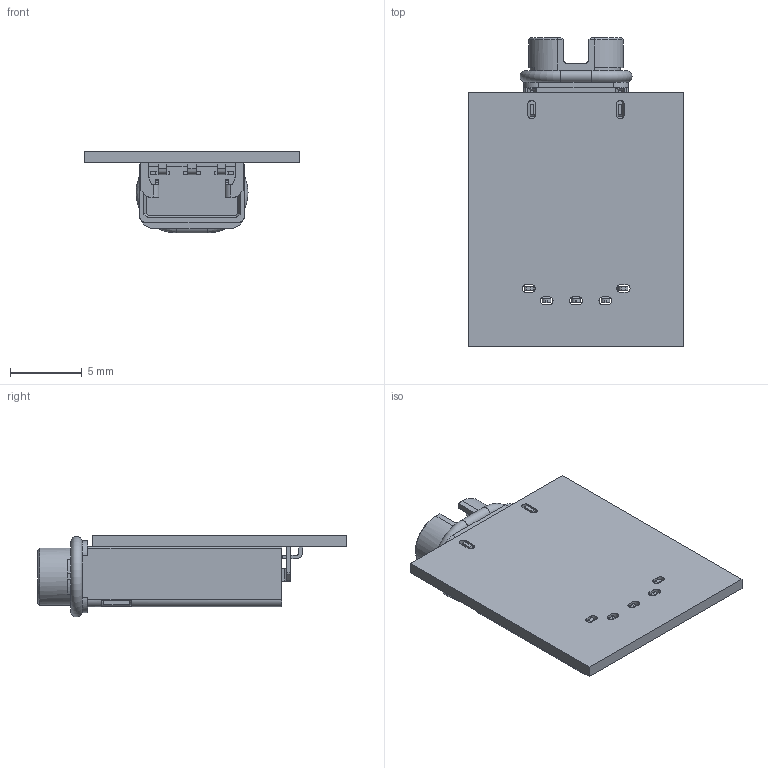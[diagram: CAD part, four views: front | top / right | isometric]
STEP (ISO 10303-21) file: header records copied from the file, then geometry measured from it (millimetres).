
FILE_DESCRIPTION(/* description */ (''),/* implementation_level */ '2;1');
FILE_NAME(/* name */ 'PJ35A145-DZ25451-E.stp',/* time_stamp */ '2025-05-28T17:42:49+08:00',/* author */ (''),/* organization */ (''),/* preprocessor_version */ 'ST-DEVELOPER v16.7',/* originating_system */ 'SIEMENS PLM Software NX 12.0',/* authorisation */ '');
FILE_SCHEMA (('AUTOMOTIVE_DESIGN { 1 0 10303 214 3 1 1 1 }'));
Length unit declared in the file: millimetre
Products named in the file (1): 2SJ2145_NOEar_ALLdip_stp
Bounding box: 15 x 21.5 x 5.7 mm (x, y, z)
Volume: 567.8 mm3; surface area: 1326.9 mm2
Topology: 3 solids, 3 shells, 516 faces, 1434 edges, 942 vertices
Faces by surface type: plane 351, cylinder 139, cone 14, extrusion 6, torus 4, bspline 2
Full cylindrical faces by diameter (mm): 0.8 x2
Entity records: 17538 total; most frequent: CARTESIAN_POINT 3897, ORIENTED_EDGE 2868, DIRECTION 2680, EDGE_CURVE 1434, VECTOR 982, LINE 976, VERTEX_POINT 942, AXIS2_PLACEMENT_3D 849
